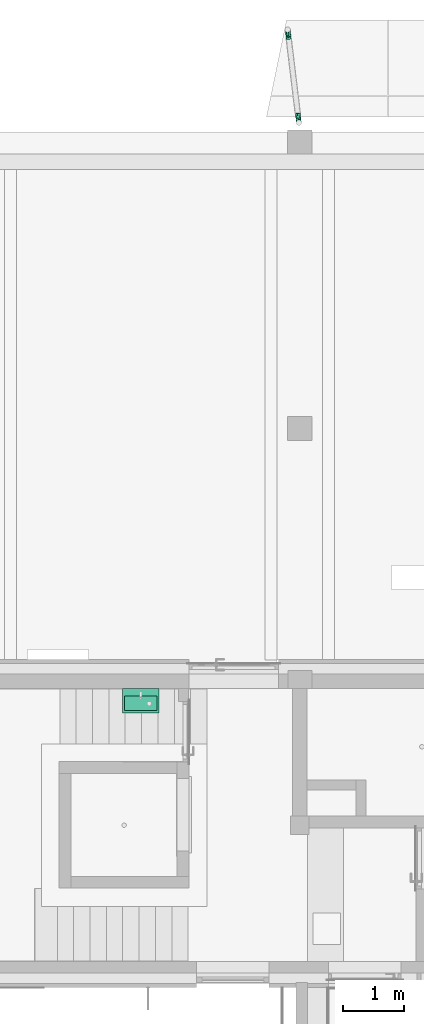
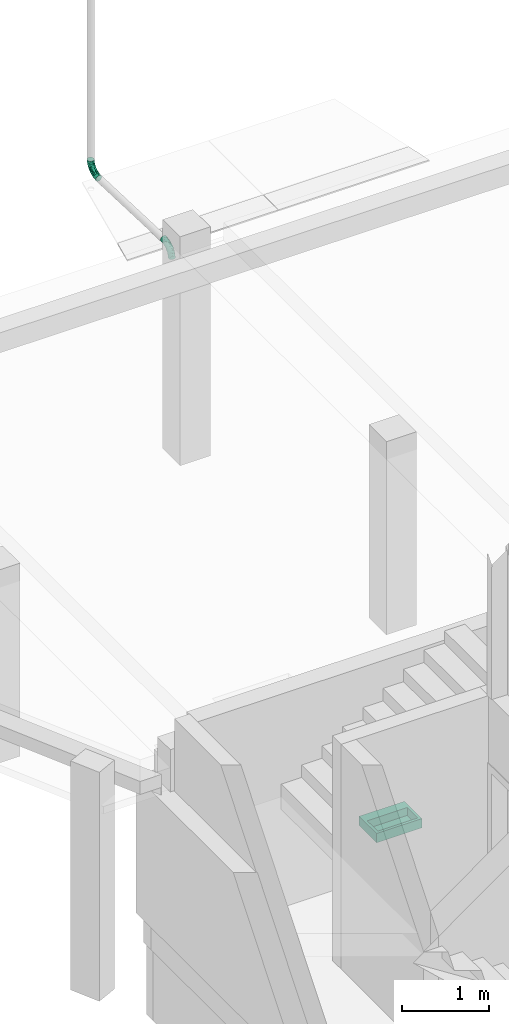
# One storey, part 14 of 55: 2 flow fittings, 1 flow terminal.
"""IFC2X3 building model written with IfcOpenShell, lengths in millimetres."""

from ifc_helpers import new_model, entity, si_unit, converted_unit, direction, frame, origin, place, context, subcontext, project, spatial, faceted_brep, source, transform, mapped, material, type_object, type_shapes, element, save


model = new_model("IFC2X3")

# Units and contexts
model_context = context("Model", 3, precision=0.01, world=origin(), true_north=direction((6.123233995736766e-17, 1.0)))
plan_context = context("Plan", 3, precision=0.01, world=origin(), true_north=direction((6.123233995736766e-17, 1.0)))
body_context = subcontext(model_context, "Body", "Model", "MODEL_VIEW")
ifc_project = project(units=[si_unit("LENGTHUNIT", "METRE", prefix="MILLI"), converted_unit("PLANEANGLEUNIT", "DEGREE", entity("IfcPlaneAngleMeasure", 0.017453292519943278), si_unit("PLANEANGLEUNIT", "RADIAN"), dimensions=[0, 0, 0, 0, 0, 0, 0]), si_unit("AREAUNIT", "SQUARE_METRE")], contexts=[model_context, plan_context])

# Site, building, storey, space
site_placement = place(None, origin())
site = spatial("IfcSite", under=ifc_project, at=site_placement, Name="Default", CompositionType="ELEMENT")
building_placement = place(site_placement, origin())
building = spatial("IfcBuilding", under=site, at=building_placement, CompositionType="ELEMENT")
storey_placement = place(building_placement, origin())
storey = spatial("IfcBuildingStorey", under=building, at=storey_placement, Name="1K", CompositionType="ELEMENT", Elevation=0.0)
space_placement = place(storey_placement, origin())
space = spatial("IfcSpace", under=storey, at=space_placement, Name="1-0.3", CompositionType="ELEMENT", InteriorOrExteriorSpace="INTERNAL")

# Flow terminal
ifc_material = material(Name="<Unnamed>")
distribution_element_type = type_object("IfcDistributionElementType", Name="HR_Plumbing-fixtures_Sink_Generic_Bathroom_v1:600 x 400 mm", material=ifc_material)
shared_shape_1 = source(origin(), body_context, "Body", "Brep", [
    faceted_brep([(300.0, 0.0, 900.0), (-300.0, 0.0, 900.0), (-300.0, -400.0, 900.0), (300.0, -400.0, 900.0), (-265.0, -125.0, 900.0), (265.0, -125.0, 900.0), (265.0, -365.0, 900.0), (-265.0, -365.0, 900.0), (300.0, 0.0, 770.0), (300.0, -400.0, 770.0), (-300.0, -400.0, 770.0), (-300.0, 0.0, 770.0), (265.0, -125.0, 790.0), (-265.0, -125.0, 790.0), (-265.0, -365.0, 790.0), (265.0, -365.0, 790.0)], [[[0, 1, 2, 3], [4, 5, 6, 7]], [[8, 9, 10, 11]], [[1, 0, 8, 11]], [[2, 1, 11, 10]], [[3, 2, 10, 9]], [[0, 3, 9, 8]], [[12, 13, 14, 15]], [[13, 12, 5, 4]], [[14, 13, 4, 7]], [[15, 14, 7, 6]], [[12, 15, 6, 5]]]),
])
type_shapes(distribution_element_type, [shared_shape_1])
flow_terminal_placement = place(space_placement, frame((2549.9935349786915, 6405.000000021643, 0.0)))
element("IfcFlowTerminal", 1, at=flow_terminal_placement, inside=space, type_object=distribution_element_type, material=ifc_material, Name="HR_Plumbing-fixtures_Sink_Generic_Bathroom_v1:600 x 400 mm", ObjectType="HR_Plumbing-fixtures_Sink_Generic_Bathroom_v1:600 x 400 mm", context=body_context, shape_type="MappedRepresentation", body=[
    mapped(shared_shape_1, transform((0.0, 0.0, 0.0), scale=1.0)),
])

# Flow fittings
pipe_fitting_type = type_object("IfcPipeFittingType", Name="Elbow - Welded - SS:D+100", PredefinedType="NOTDEFINED", material=ifc_material)
shared_shape_2 = source(origin(), body_context, "Body", "Brep", [
    faceted_brep([(-159.25054762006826, 21.0, -36.3730669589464), (-159.25054762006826, 10.870399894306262, -40.568884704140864), (-159.25054762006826, 0.0, -42.0), (-159.25054762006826, -10.87039989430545, -40.56888470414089), (-159.25054762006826, -21.0, -36.37306695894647), (-159.25054762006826, -29.6984848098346, -29.698484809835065), (-159.25054762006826, -36.37306695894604, -21.0), (-159.25054762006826, -40.56888470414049, -10.870399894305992), (-159.25054762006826, -42.0, 0.0), (-159.25054762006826, -40.568884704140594, 10.870399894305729), (-159.25054762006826, -36.373066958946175, 21.0), (-159.25054762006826, -29.698484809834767, 29.698484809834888), (-159.25054762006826, -21.0, 36.37306695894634), (-159.25054762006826, -10.87039989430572, 40.56888470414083), (-159.25054762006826, 0.0, 42.0), (-159.25054762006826, 10.870399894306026, 40.56888470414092), (-159.25054762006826, 21.0, 36.37306695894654), (-159.25054762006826, 29.698484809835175, 29.69848480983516), (-159.25054762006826, 36.37306695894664, 21.0), (-159.25054762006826, 40.568884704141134, 10.870399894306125), (-159.25054762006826, 42.0, 0.0), (-159.25054762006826, 40.5688847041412, -10.870399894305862), (-159.25054762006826, 36.37306695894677, -21.0), (-159.25054762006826, 29.69848480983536, -29.698484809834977), (19.407759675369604, 158.0635181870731, -42.0), (8.618386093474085, 159.3882866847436, -40.568884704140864), (-1.4357095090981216, 160.6227743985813, -36.3730669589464), (-10.069357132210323, 161.68285303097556, -29.698484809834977), (-16.69418795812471, 162.4962799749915, -21.0), (-20.858730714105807, 163.00762152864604, -10.870399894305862), (-22.27917869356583, 163.18203061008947, 0.0), (-20.858730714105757, 163.00762152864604, 10.870399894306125), (-16.694187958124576, 162.4962799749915, 21.0), (-10.069357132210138, 161.68285303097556, 29.69848480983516), (-1.4357095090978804, 160.62277439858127, 36.37306695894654), (8.618386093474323, 159.38828668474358, 40.56888470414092), (19.407759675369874, 158.06351818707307, 42.0), (30.197133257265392, 156.73874968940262, 40.56888470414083), (40.25122885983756, 155.50426197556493, 36.37306695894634), (48.88487648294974, 154.44418334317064, 29.698484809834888), (55.50970730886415, 153.63075639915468, 21.0), (59.674250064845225, 153.1194148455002, 10.870399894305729), (61.094698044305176, 152.94500576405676, 0.0), (59.67425006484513, 153.1194148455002, -10.870399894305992), (55.50970730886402, 153.63075639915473, -21.0), (48.88487648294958, 154.44418334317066, -29.698484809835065), (40.25122885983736, 155.50426197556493, -36.37306695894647), (30.197133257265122, 156.73874968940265, -40.56888470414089), (-114.15361194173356, 39.64007541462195, 26.51381475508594), (-127.8236105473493, 28.12558658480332, 33.816938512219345), (-94.85696828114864, -30.844110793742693, 11.27574669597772), (-113.63571816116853, -37.263175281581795, 0.0), (-69.96746033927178, -23.25484084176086, 0.0), (-114.89772587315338, -21.583075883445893, 32.661761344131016), (-65.13287177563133, -7.215043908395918, 29.85471652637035), (-78.5678594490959, -0.7064328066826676, 37.99448462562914), (-30.109277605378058, -0.5727896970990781, 0.0), (-50.81255240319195, -12.791634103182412, 8.181535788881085), (-126.36688977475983, -38.21482310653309, 10.45234892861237), (-102.92816700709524, -26.589133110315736, 24.47862530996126), (-13.170593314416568, 14.886647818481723, 11.27574667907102), (-53.49204259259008, -10.830557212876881, 17.507819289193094), (4.23791810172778, 29.815042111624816, 0.0), (18.88877966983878, 48.87489538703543, 8.181535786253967), (31.608391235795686, 66.61188131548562, 0.0), (50.834131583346, 108.24745604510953, 0.0), (42.174359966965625, 90.39096740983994, 11.275746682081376), (-121.62433347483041, -13.282922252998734, 38.444913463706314), (53.530726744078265, 119.34094776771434, 7.856436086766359), (36.067556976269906, 83.5537811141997, 18.239942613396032), (49.01776580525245, 115.75981810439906, 17.99297654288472), (-122.93808527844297, -35.20405429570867, 17.356047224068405), (9.43719331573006, 132.76891687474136, 41.72194520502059), (14.990351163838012, 113.26344790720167, 41.4807003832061), (-21.935548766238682, 48.532882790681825, 40.76685868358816), (-17.56276283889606, 38.08041624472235, 36.63437128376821), (10.276180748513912, 77.89613424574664, 37.99448461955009), (-25.49885578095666, 133.81446804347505, 16.788396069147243), (-132.92938206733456, 6.813610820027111, 41.72194520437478), (-41.49449328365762, 46.900992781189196, 41.93767576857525), (-66.57756949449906, 18.784522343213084, 41.57590185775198), (-116.26191640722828, 20.738117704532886, 39.21543293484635), (-118.76188538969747, 43.13397853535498, 19.362112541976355), (-89.79768742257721, 52.70362027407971, 23.232314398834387), (-127.70753395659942, 43.74450784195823, 12.356967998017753), (-35.267808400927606, 107.76507612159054, 20.762389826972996), (-65.81985916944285, 74.39581729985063, 15.59322009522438), (-62.83330657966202, 71.02013365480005, 23.966168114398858), (-98.56051185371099, 14.732880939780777, 41.814620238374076), (-114.24606362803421, -1.075273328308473, 41.48070038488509), (-119.825552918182, 47.75148472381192, 0.0), (-97.93714109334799, 53.781821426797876, 13.772590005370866), (-83.68682277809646, 64.5265247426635, 0.0), (-31.817385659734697, 72.45769754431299, 39.85420478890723), (-2.611559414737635, 99.62134324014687, 41.8146202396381), (-6.414775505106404, 117.92265847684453, 39.21543293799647), (38.93472993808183, 98.92055599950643, 24.478625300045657), (-85.84501702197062, -25.086125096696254, 18.2511004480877), (-14.180880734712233, 19.79780172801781, 21.424166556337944), (15.09896456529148, 63.76808874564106, 29.85471647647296), (23.010593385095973, 66.80518000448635, 23.879255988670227), (35.42470932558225, 111.41098035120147, 32.661761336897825), (17.268868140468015, 51.77340832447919, 17.507819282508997), (-69.11151000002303, -14.697572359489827, 23.879256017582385), (-4.879021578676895, 78.68958897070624, 41.74217405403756), (-67.38888221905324, 76.16927526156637, 7.270058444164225), (-53.846695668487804, 90.9268390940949, 0.0), (-29.40710248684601, 130.58980577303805, 8.775057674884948), (-41.44540482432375, 103.76148773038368, 13.77259000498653), (28.006191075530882, 119.09898325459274, 38.44491346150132), (-32.79249094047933, 124.75183350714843, 0.0), (-70.49045140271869, 37.40697212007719, 40.23777920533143), (-54.228770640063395, 61.29447494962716, 36.0766240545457), (-12.338163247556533, 130.29847946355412, 33.81693851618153), (-25.432778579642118, 118.13363815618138, 26.513814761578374), (-28.44381021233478, 95.14926745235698, 34.40929537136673), (-50.24469651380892, 74.99553238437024, 30.71548211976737), (-78.9049191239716, 53.4404087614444, 29.300855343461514), (-90.9736108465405, 39.82757308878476, 34.40929536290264), (-68.22963620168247, 26.84746914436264, 41.95961659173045), (-18.781230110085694, 71.14699929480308, 41.937487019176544), (-20.565533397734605, 23.245107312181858, 30.09369453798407), (-46.45941350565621, 10.510935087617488, 34.75011392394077), (-45.931029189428, 20.66922502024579, 39.02776210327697), (-118.54968372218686, 20.19636821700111, -39.19375351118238), (-108.16909583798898, 11.777986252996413, -41.790135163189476), (-17.922017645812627, 16.487923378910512, -21.424166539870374), (6.604458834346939, 45.95084316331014, -25.655487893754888), (17.268868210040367, 51.77340841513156, -17.50781927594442), (-120.24466050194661, -2.309378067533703, -41.50403926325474), (-110.8423900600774, -11.118737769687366, -38.33716703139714), (-95.49989705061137, 37.82830095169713, -34.33470629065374), (-130.53781932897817, 27.648183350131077, -33.77412769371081), (-115.72329561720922, 39.17396950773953, -26.48023717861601), (-65.81986163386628, 74.39581500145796, -15.593220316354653), (-92.26273434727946, 52.3987760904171, -21.825284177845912), (-97.93714318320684, 53.78182037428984, -13.77259010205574), (-126.03258589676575, 45.10280004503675, -8.775057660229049), (-25.498855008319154, 133.81447011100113, -16.7883961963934), (-67.38888354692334, 76.16927413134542, -7.270058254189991), (-129.70950765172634, 41.61667226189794, -16.788396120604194), (-115.33240662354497, -29.39505795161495, -24.72487818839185), (-105.92122276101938, -32.69607935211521, -14.869290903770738), (38.857846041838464, 122.86857528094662, -32.84072567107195), (24.544149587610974, 108.66115425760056, -38.33716704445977), (-80.84642862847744, 29.75295576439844, -40.65955994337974), (-46.04056627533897, 40.93099312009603, -41.99454111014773), (-75.64918277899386, 23.33254037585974, -41.930096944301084), (-76.60197898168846, 11.642753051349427, -41.31585257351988), (-50.81255261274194, -12.791634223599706, -8.18153577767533), (-84.61720621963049, -28.28697893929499, -7.877650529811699), (-53.492043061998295, -10.83055747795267, -17.50781927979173), (-118.45231947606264, -37.44448287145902, -7.960080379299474), (-13.170593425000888, 14.88664773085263, -11.275746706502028), (-79.32391150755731, -19.813805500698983, -22.902065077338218), (43.23143627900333, 110.89037987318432, -24.724878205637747), (28.334931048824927, 75.19947997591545, -23.403048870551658), (45.360917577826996, 101.14705225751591, -14.869290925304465), (16.04280338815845, 116.30767450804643, -41.49304218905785), (-41.44540297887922, 103.7614905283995, -13.77259008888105), (38.38837545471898, 80.53916685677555, -7.877650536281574), (51.60108381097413, 113.00605943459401, -7.960080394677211), (-29.40710226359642, 130.58980651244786, -8.775057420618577), (-24.778850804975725, 119.63481685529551, -26.480237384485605), (-40.76420644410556, 97.96082302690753, -21.825284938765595), (-62.83330841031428, 71.02013146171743, -23.966168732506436), (-11.533539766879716, 132.93427566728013, -33.77412772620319), (-8.9422533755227, 67.3378035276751, -41.26102603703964), (0.8654318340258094, 61.525535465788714, -37.36394914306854), (-29.78185974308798, 35.39176455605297, -39.5635168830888), (-5.93666766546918, 119.20187077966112, -39.20284976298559), (-0.3618536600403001, 104.47696863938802, -41.8017744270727), (-19.2425933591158, 70.08898573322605, -41.95217408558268), (-48.715227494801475, 55.06254755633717, -39.876935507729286), (-20.428056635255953, 83.60523626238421, -40.536050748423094), (-25.907825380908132, 99.39816442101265, -34.334706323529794), (-87.01421013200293, -13.922470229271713, -32.22198033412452), (-126.68831185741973, -23.594292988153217, -32.84072566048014), (18.888779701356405, 48.87489542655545, -8.181535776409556), (-59.61145811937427, 7.691829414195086, -37.434877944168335), (-52.1623199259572, 61.16832491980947, -36.913487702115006), (-74.41485584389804, 42.04364499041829, -37.92540806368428), (-57.374353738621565, 64.849908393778, -32.784260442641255), (-51.58100430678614, -3.4538989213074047, -26.337585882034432), (-20.565533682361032, 23.24510699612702, -30.093694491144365), (24.42305875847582, 84.66889689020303, -32.22198036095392), (-83.07631957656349, 51.33270836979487, -28.901322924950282), (-40.82562600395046, 88.71296353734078, -28.901323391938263), (-46.95031979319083, 30.254783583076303, -41.382370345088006), (-51.43247433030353, 3.908787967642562, -32.60299989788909), (3.4758708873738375, 51.68718151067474, -31.977401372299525), (-21.80975850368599, 31.666929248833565, -35.64126750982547)], [[[0, 1, 2, 3, 4, 5, 6, 7, 8, 9, 10, 11, 12, 13, 14, 15, 16, 17, 18, 19, 20, 21, 22, 23]], [[24, 25, 26, 27, 28, 29, 30, 31, 32, 33, 34, 35, 36, 37, 38, 39, 40, 41, 42, 43, 44, 45, 46, 47]], [[48, 17, 49]], [[50, 51, 52]], [[53, 54, 55]], [[52, 56, 57]], [[58, 8, 51]], [[16, 49, 17]], [[10, 59, 11]], [[57, 60, 61]], [[60, 62, 63]], [[52, 57, 50]], [[11, 59, 53]], [[64, 65, 66]], [[13, 12, 67]], [[68, 66, 65]], [[69, 66, 70]], [[58, 50, 71]], [[36, 72, 73]], [[18, 17, 48]], [[74, 75, 76]], [[77, 32, 31]], [[15, 14, 78]], [[74, 79, 80]], [[15, 78, 81]], [[82, 48, 83]], [[36, 35, 72]], [[20, 19, 84]], [[85, 86, 87]], [[88, 78, 89]], [[90, 91, 92]], [[93, 94, 95]], [[15, 81, 16]], [[88, 89, 80]], [[56, 62, 60]], [[96, 40, 39]], [[73, 37, 36]], [[97, 71, 50]], [[60, 98, 61]], [[41, 70, 68]], [[61, 97, 50]], [[99, 100, 96]], [[101, 39, 38]], [[70, 40, 96]], [[71, 9, 58]], [[63, 66, 102]], [[98, 54, 103]], [[104, 73, 94]], [[11, 53, 12]], [[41, 68, 42]], [[96, 101, 99]], [[35, 34, 95]], [[92, 105, 106]], [[107, 106, 108]], [[38, 37, 109]], [[110, 107, 30]], [[111, 93, 112]], [[96, 39, 101]], [[14, 13, 89]], [[34, 33, 113]], [[91, 86, 105]], [[113, 114, 115]], [[84, 90, 20]], [[107, 108, 77]], [[84, 18, 82]], [[32, 114, 33]], [[95, 94, 72]], [[85, 114, 77]], [[88, 111, 81]], [[62, 64, 63]], [[98, 60, 102]], [[116, 117, 112]], [[117, 118, 112]], [[48, 117, 83]], [[114, 32, 77]], [[114, 85, 116]], [[67, 89, 13]], [[88, 80, 119]], [[88, 119, 111]], [[49, 81, 118]], [[113, 95, 34]], [[112, 93, 115]], [[120, 74, 104]], [[109, 73, 76]], [[54, 53, 59]], [[67, 53, 55]], [[103, 54, 59]], [[121, 75, 122]], [[109, 101, 38]], [[76, 75, 99]], [[76, 99, 101]], [[99, 121, 98]], [[89, 55, 80]], [[122, 54, 121]], [[123, 80, 55]], [[104, 76, 73]], [[111, 79, 93]], [[118, 81, 111]], [[93, 79, 120]], [[115, 93, 95]], [[60, 57, 56]], [[50, 57, 61]], [[66, 63, 64]], [[60, 63, 102]], [[73, 109, 37]], [[101, 109, 76]], [[53, 67, 12]], [[89, 67, 55]], [[98, 102, 100]], [[98, 121, 54]], [[122, 123, 55]], [[99, 75, 121]], [[81, 49, 16]], [[48, 49, 118]], [[114, 113, 33]], [[95, 113, 115]], [[123, 122, 75]], [[55, 54, 122]], [[75, 74, 123]], [[80, 123, 74]], [[116, 112, 115]], [[111, 112, 118]], [[114, 116, 115]], [[116, 87, 117]], [[83, 117, 87]], [[48, 118, 117]], [[86, 83, 87]], [[82, 83, 91]], [[84, 82, 91]], [[18, 48, 82]], [[90, 84, 91]], [[18, 84, 19]], [[107, 77, 31]], [[77, 108, 85]], [[30, 107, 31]], [[106, 107, 110]], [[86, 85, 108]], [[116, 85, 87]], [[120, 104, 94]], [[76, 104, 74]], [[93, 120, 94]], [[74, 120, 79]], [[108, 106, 105]], [[83, 86, 91]], [[91, 105, 92]], [[108, 105, 86]], [[89, 78, 14]], [[81, 78, 88]], [[95, 72, 35]], [[73, 72, 94]], [[103, 97, 61]], [[71, 59, 10]], [[59, 71, 97]], [[9, 71, 10]], [[8, 58, 9]], [[51, 50, 58]], [[42, 68, 65]], [[70, 41, 40]], [[69, 70, 96]], [[68, 70, 66]], [[100, 69, 96]], [[102, 66, 69]], [[97, 103, 59]], [[98, 103, 61]], [[98, 100, 99]], [[69, 100, 102]], [[80, 79, 119]], [[111, 119, 79]], [[1, 124, 125]], [[126, 127, 128]], [[129, 3, 2]], [[4, 3, 130]], [[131, 132, 133]], [[134, 135, 136]], [[90, 137, 20]], [[28, 138, 29]], [[136, 137, 92]], [[0, 23, 132]], [[106, 139, 92]], [[21, 140, 22]], [[6, 141, 142]], [[46, 143, 144]], [[145, 146, 147]], [[125, 148, 129]], [[6, 142, 7]], [[149, 150, 151]], [[8, 7, 152]], [[126, 153, 151]], [[154, 142, 141]], [[149, 153, 56]], [[45, 44, 155]], [[128, 127, 156]], [[43, 157, 44]], [[150, 152, 142]], [[126, 128, 153]], [[137, 136, 140]], [[147, 125, 145]], [[52, 149, 56]], [[6, 5, 141]], [[144, 158, 47]], [[139, 159, 134]], [[160, 161, 65]], [[30, 29, 162]], [[124, 145, 125]], [[138, 163, 164]], [[165, 135, 134]], [[27, 166, 163]], [[167, 168, 169]], [[170, 25, 171]], [[2, 1, 125]], [[24, 47, 158]], [[29, 138, 162]], [[172, 146, 173]], [[25, 170, 26]], [[152, 150, 51]], [[166, 27, 26]], [[174, 175, 170]], [[24, 171, 25]], [[62, 56, 153]], [[47, 46, 144]], [[176, 177, 130]], [[178, 160, 64]], [[46, 45, 143]], [[130, 179, 176]], [[62, 178, 64]], [[180, 173, 181]], [[65, 161, 42]], [[144, 168, 167]], [[44, 157, 155]], [[160, 65, 64]], [[133, 23, 22]], [[153, 128, 178]], [[181, 182, 180]], [[5, 4, 177]], [[27, 163, 28]], [[106, 110, 162]], [[1, 0, 124]], [[183, 184, 126]], [[129, 130, 3]], [[179, 130, 148]], [[168, 144, 185]], [[158, 167, 171]], [[133, 22, 140]], [[133, 135, 186]], [[187, 175, 182]], [[164, 165, 134]], [[174, 170, 171]], [[166, 170, 175]], [[132, 124, 0]], [[145, 181, 173]], [[156, 157, 128]], [[143, 155, 185]], [[177, 141, 5]], [[176, 183, 154]], [[147, 188, 148]], [[183, 189, 184]], [[167, 158, 144]], [[171, 24, 158]], [[127, 190, 185]], [[191, 179, 169]], [[125, 129, 2]], [[130, 129, 148]], [[153, 178, 62]], [[160, 128, 157]], [[150, 149, 52]], [[153, 149, 151]], [[181, 124, 131]], [[145, 173, 146]], [[173, 174, 172]], [[188, 167, 169]], [[191, 169, 168]], [[188, 179, 148]], [[183, 126, 151]], [[126, 184, 127]], [[154, 183, 151]], [[189, 176, 179]], [[190, 127, 184]], [[156, 185, 155]], [[191, 190, 184]], [[168, 185, 190]], [[185, 156, 127]], [[157, 156, 155]], [[174, 171, 172]], [[174, 173, 180]], [[171, 167, 172]], [[167, 146, 172]], [[128, 160, 178]], [[160, 157, 161]], [[157, 43, 161]], [[42, 161, 43]], [[51, 150, 52]], [[151, 150, 142]], [[8, 152, 51]], [[7, 142, 152]], [[190, 191, 168]], [[191, 184, 189]], [[176, 189, 183]], [[191, 189, 179]], [[124, 181, 145]], [[181, 131, 182]], [[186, 131, 133]], [[165, 164, 187]], [[182, 175, 180]], [[174, 180, 175]], [[137, 140, 21]], [[140, 136, 135]], [[20, 137, 21]], [[92, 137, 90]], [[163, 138, 28]], [[162, 138, 159]], [[106, 162, 159]], [[30, 162, 110]], [[130, 177, 4]], [[141, 177, 176]], [[155, 143, 45]], [[144, 143, 185]], [[133, 132, 23]], [[124, 132, 131]], [[170, 166, 26]], [[163, 166, 175]], [[188, 147, 146]], [[148, 125, 147]], [[142, 154, 151]], [[176, 154, 141]], [[136, 92, 139]], [[164, 134, 159]], [[159, 139, 106]], [[136, 139, 134]], [[186, 165, 182]], [[140, 135, 133]], [[165, 186, 135]], [[131, 186, 182]], [[138, 164, 159]], [[187, 164, 163]], [[175, 187, 163]], [[165, 187, 182]], [[167, 188, 146]], [[179, 188, 169]]]),
])
type_shapes(pipe_fitting_type, [shared_shape_2])
for number, where, z_axis, x_axis in (
    (2, (4974.951022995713, 17283.02967270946, 2386.811229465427), (-0.9927565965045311, -0.12014299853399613, 0.0), (0.0, 0.0, -1.0)),
    (3, (5160.977077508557, 15745.873159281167, 2196.6950537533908), (0.9927565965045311, 0.1201429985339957, 0.0), (0.11924747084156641, -0.9853567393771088, -0.12186934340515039)),
):
    element("IfcFlowFitting", number, at=place(storey_placement, frame(where, z_axis=z_axis, x_axis=x_axis)), inside=storey, type_object=pipe_fitting_type, material=ifc_material, Name="Elbow - Welded - SS:D+100", ObjectType="Elbow - Welded - SS:D+100", context=body_context, shape_type="MappedRepresentation", body=[
        mapped(shared_shape_2, transform((0.0, 0.0, 0.0), scale=1.0)),
    ])

save(model, "model.ifc")
